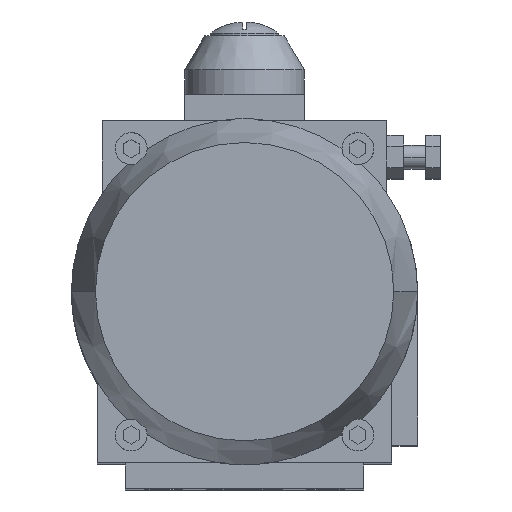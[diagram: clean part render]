
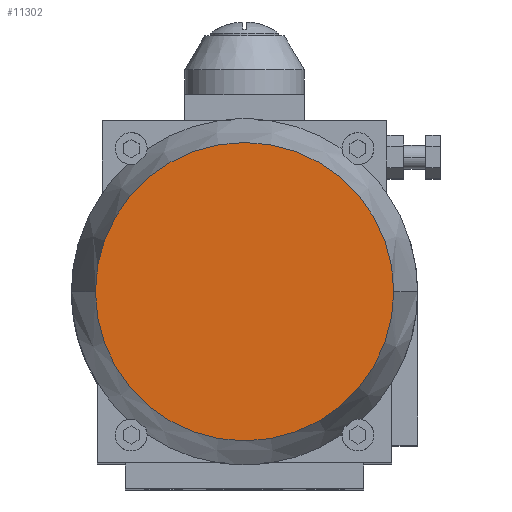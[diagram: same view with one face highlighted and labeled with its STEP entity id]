
A CAD part, top view. The second image highlights one B-rep face of the part: STEP entity #11302.
In plain terms, the highlighted planar face has unit normal (0, 0, 1).
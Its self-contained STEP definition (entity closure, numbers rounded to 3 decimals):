
#10319=CARTESIAN_POINT('',(0.,0.,231.));
#10320=DIRECTION('',(0.,0.,-1.));
#10321=DIRECTION('',(-1.,0.,0.));
#10322=AXIS2_PLACEMENT_3D('',#10319,#10320,#10321);
#10324=CARTESIAN_POINT('',(0.,0.,231.));
#10325=DIRECTION('',(0.,0.,-1.));
#10326=DIRECTION('',(1.,0.,0.));
#10327=AXIS2_PLACEMENT_3D('',#10324,#10325,#10326);
#10554=CARTESIAN_POINT('',(-75.,0.,231.));
#10555=CARTESIAN_POINT('',(75.,0.,231.));
#10556=VERTEX_POINT('',#10554);
#10557=VERTEX_POINT('',#10555);
#11293=CARTESIAN_POINT('',(0.,0.,231.));
#11294=DIRECTION('',(0.,0.,1.));
#11295=DIRECTION('',(1.,0.,0.));
#11296=AXIS2_PLACEMENT_3D('',#11293,#11294,#11295);
#11297=PLANE('',#11296);
#11298=ORIENTED_EDGE('',*,*,#10888,.T.);
#11299=ORIENTED_EDGE('',*,*,#11029,.T.);
#11300=EDGE_LOOP('',(#11298,#11299));
#11301=FACE_OUTER_BOUND('',#11300,.F.);
#11302=ADVANCED_FACE('',(#11301),#11297,.T.);
#10323=CIRCLE('',#10322,75.);
#10328=CIRCLE('',#10327,75.);
#10888=EDGE_CURVE('',#10556,#10557,#10323,.T.);
#11029=EDGE_CURVE('',#10557,#10556,#10328,.T.);
